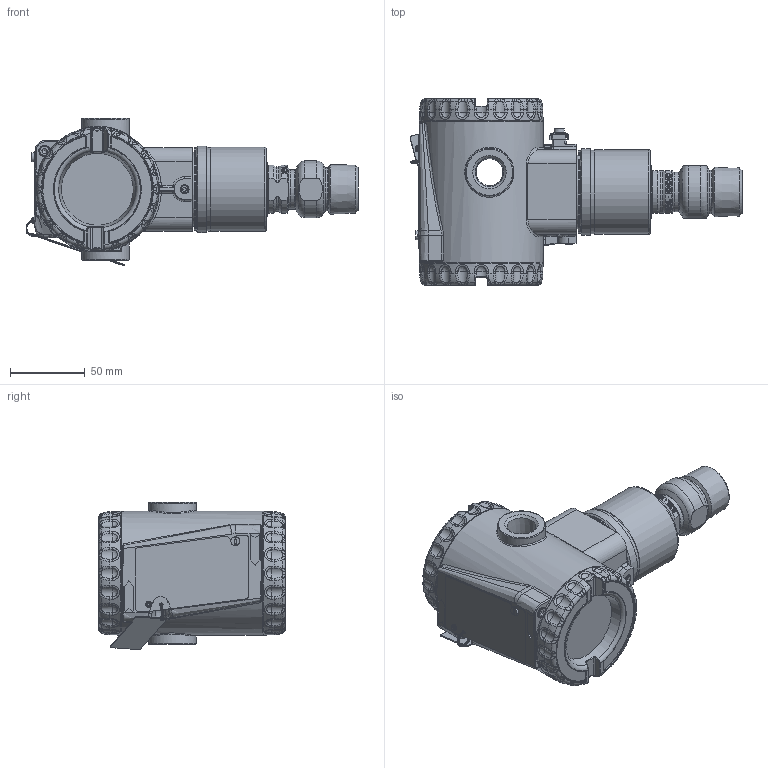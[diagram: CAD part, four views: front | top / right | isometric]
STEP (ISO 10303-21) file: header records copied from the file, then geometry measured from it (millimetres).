
FILE_DESCRIPTION(/* description */ (''),/* implementation_level */ '2;1');
FILE_NAME(/* name */ 'F:\Area\Desenvolvimento_2\Projects\Sensor\projetos\LD400-3d\dimensionais 3D clientes\LD400G\LD400G2-3 1 NPT SELADO.stp',/* time_stamp */ '2023-02-02T16:37:27-03:00',/* author */ ('inventor02'),/* organization */ (''),/* preprocessor_version */ 'ST-DEVELOPER v17',/* originating_system */ 'Autodesk Inventor 2019',/* authorisation */ '');
FILE_SCHEMA (('CONFIG_CONTROL_DESIGN'));
Products named in the file (28): LD400G2-3 1 NPT SELADO; SENSOR 29X FX2-3 1NPT selado; 101-B-5895-01 capa fx2-3; 101-C-3677-06 conexao ao processo 1-2NPT; 101-D-1309-04 pescoço LD29x usinado; 101-C-3962-04 - X - 1NPT selado; DIAFRAGMA CORRUGADO D27-5; Carcaça 400 com tampas e plaqueta sem letras; 101-D-0845-05 carcaça LD400 sem letras; 101-B-3614-03-tampa 400 sem letras; Tampa visor 400 montada sem letras; 101-B-3612-05 tampa visor 400 sem letras; 101-A-6107; oring 2034; 00034775-0; WHW_250; DIN 915 - M6 x 10; Chapa aterramento externo; 201-A-1771-02 inserto terra recartilhado; AS 1969 - ST4,2; ISO 1207 - M4 x 8; ANSI B18.3.1M - M4x0,7 x 8; Subconjunto plaqueta 400; plaqueta 400 em branco; Parafuso da Plaqueta; Rebite da Plaqueta; 096-A-0169-03; 101-A-0502-01
Assembly tree (29 placements, depth 4):
  LD400G2-3 1 NPT SELADO
    SENSOR 29X FX2-3 1NPT selado
      101-B-5895-01 capa fx2-3
      101-C-3677-06 conexao ao processo 1-2NPT
      101-D-1309-04 pescoço LD29x usinado
      101-C-3962-04 - X - 1NPT selado
      DIN 915 - M6 x 10
      DIAFRAGMA CORRUGADO D27-5
    Carcaça 400 com tampas e plaqueta sem letras
      101-D-0845-05 carcaça LD400 sem letras
      101-B-3614-03-tampa 400 sem letras
      Tampa visor 400 montada sem letras
        101-B-3612-05 tampa visor 400 sem letras
        101-A-6107
        oring 2034
        00034775-0
        WHW_250
      DIN 915 - M6 x 10
      Chapa aterramento externo
      201-A-1771-02 inserto terra recartilhado
      AS 1969 - ST4,2
      ISO 1207 - M4 x 8
      ANSI B18.3.1M - M4x0,7 x 8  x2
      Subconjunto plaqueta 400
        plaqueta 400 em branco
        Parafuso da Plaqueta
        Rebite da Plaqueta
        096-A-0169-03
        101-A-0502-01
Bounding box: 222.55 x 125 x 98.64 mm (x, y, z)
Volume: 480750.1 mm3; surface area: 192890.4 mm2
Topology: 25 solids, 25 shells, 2025 faces, 5065 edges, 3109 vertices
Faces by surface type: plane 559, bspline 516, cylinder 446, torus 302, cone 147, sphere 55
Full cylindrical faces by diameter (mm): 2 x3, 2.1 x1, 2.2 x1, 2.459 x3, 2.5 x1, 2.7 x1, 3 x1, 3.2 x1, 3.242 x3, 3.5 x4, 3.571 x1, 4 x5, 4.3 x2, 4.4 x1, 4.917 x2, 6 x3, 6.1 x2, 6.2 x1, 7 x2, 7.6 x2, 17 x1, 17.5 x1, 18 x1, 18.3 x2, 26.5 x2, 27.5 x2, 28.399 x1, 29 x1, 32 x2, 32.2 x1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
Entity records: 78089 total; most frequent: CARTESIAN_POINT 31115, ORIENTED_EDGE 9890, DIRECTION 9278, EDGE_CURVE 4945, AXIS2_PLACEMENT_3D 3870, VERTEX_POINT 3057, CIRCLE 2244, EDGE_LOOP 2102
